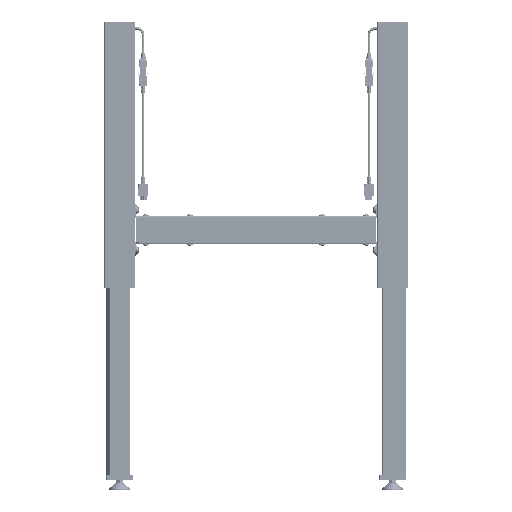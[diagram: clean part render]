
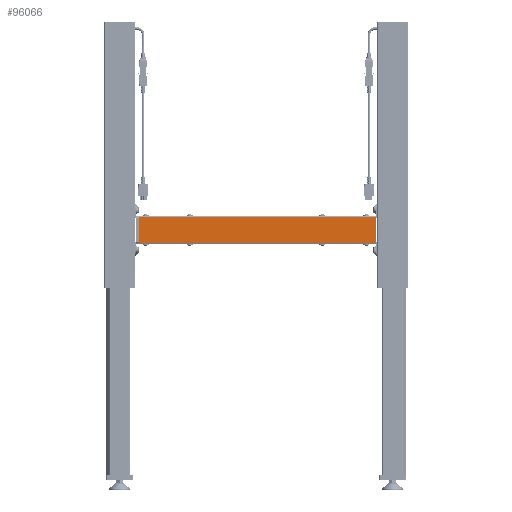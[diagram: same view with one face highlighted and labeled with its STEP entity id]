
A CAD part, front view. The second image highlights one B-rep face of the part: STEP entity #96066.
In plain terms, the highlighted planar face has unit normal (0, -1, 0) as drawn and (0, 0, -1) by its records, which use the part's own axes.
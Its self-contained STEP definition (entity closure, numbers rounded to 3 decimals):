
#25727=ORIENTED_EDGE('',*,*,#38582,.F.);
#25728=ORIENTED_EDGE('',*,*,#38568,.T.);
#25729=ORIENTED_EDGE('',*,*,#38583,.F.);
#25730=ORIENTED_EDGE('',*,*,#38576,.T.);
#38568=EDGE_CURVE('',#46609,#46610,#53887,.T.);
#38576=EDGE_CURVE('',#46617,#46618,#53891,.T.);
#38582=EDGE_CURVE('',#46609,#46618,#53895,.T.);
#38583=EDGE_CURVE('',#46617,#46610,#53896,.T.);
#46609=VERTEX_POINT('',#150530);
#46610=VERTEX_POINT('',#150531);
#46617=VERTEX_POINT('',#150548);
#46618=VERTEX_POINT('',#150549);
#53887=LINE('',#150529,#61057);
#53891=LINE('',#150547,#61061);
#53895=LINE('',#150559,#61065);
#53896=LINE('',#150560,#61066);
#61057=VECTOR('',#123404,1000.);
#61061=VECTOR('',#123420,1000.);
#61065=VECTOR('',#123432,1000.);
#61066=VECTOR('',#123433,1000.);
#65787=EDGE_LOOP('',(#25727,#25728,#25729,#25730));
#70367=FACE_BOUND('',#65787,.T.);
#73117=PLANE('',#103256);
#96066=ADVANCED_FACE('',(#70367),#73117,.T.);
#103256=AXIS2_PLACEMENT_3D('',#150558,#123430,#123431);
#123404=DIRECTION('',(-1.,0.,0.));
#123420=DIRECTION('',(1.,0.,0.));
#123430=DIRECTION('',(0.,0.,-1.));
#123431=DIRECTION('',(-1.,0.,0.));
#123432=DIRECTION('',(0.,1.,0.));
#123433=DIRECTION('',(0.,-1.,0.));
#150529=CARTESIAN_POINT('',(537.7,-29.9,-2.5));
#150530=CARTESIAN_POINT('',(537.7,-29.9,-2.5));
#150531=CARTESIAN_POINT('',(0.,-29.9,-2.5));
#150547=CARTESIAN_POINT('',(0.,29.9,-2.5));
#150548=CARTESIAN_POINT('',(0.,29.9,-2.5));
#150549=CARTESIAN_POINT('',(537.7,29.9,-2.5));
#150558=CARTESIAN_POINT('',(0.,0.,-2.5));
#150559=CARTESIAN_POINT('',(537.7,-32.5,-2.5));
#150560=CARTESIAN_POINT('',(0.,-32.5,-2.5));
